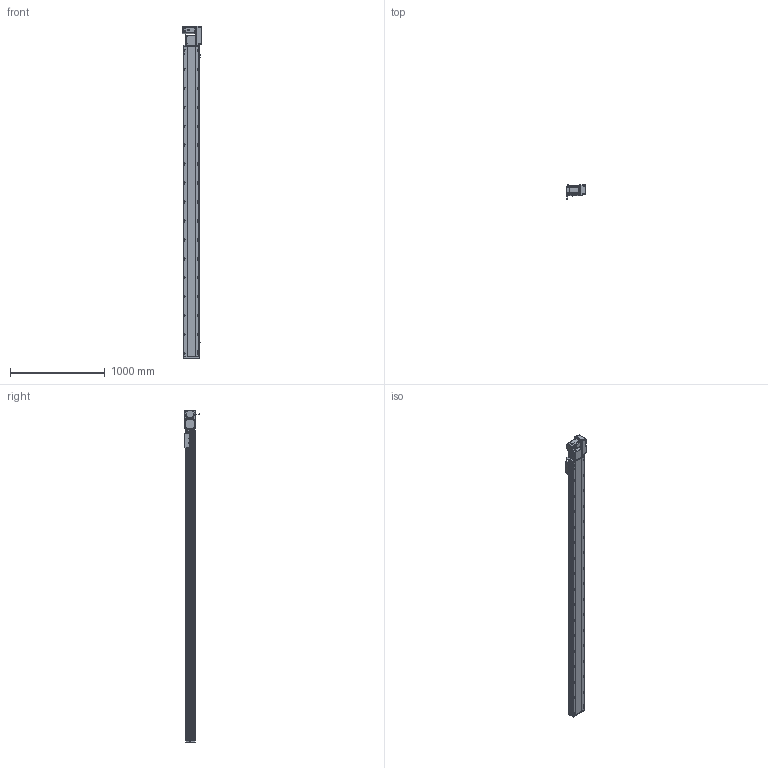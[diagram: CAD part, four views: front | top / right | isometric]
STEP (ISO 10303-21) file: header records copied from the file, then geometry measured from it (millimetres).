
FILE_DESCRIPTION (( 'STEP AP214' ), '1' );
FILE_NAME ('RTB17S-XX-3000-R-M75-C4.STEP', '2025-12-12T01:50:55', ( '' ), ( '' ), 'SwSTEP 2.0', 'SolidWorks 2018', '' );
FILE_SCHEMA (( 'AUTOMOTIVE_DESIGN' ));
Length unit declared in the file: millimetre
Products named in the file (15): RTB22S-GY-005P^RTB17S-R-々湍釱蚾饜-750W_RTB17S-XX-XX-R-M75-C4; RTB17S-L-014-T20-P75--々湍釱^RTB17S-R-々湍釱蚾饜-750W_RTB17S-XX-XX-R-M75-C4; RTB22S-GY-018P^RTB17S-R-々湍釱蚾饜-750W_RTB17S-XX-XX-R-M75-C4; RTB17-R-011菁釱^RTB17S-XX-XX-R-M75-C4; RTB17S-賑釱^RTB17S-XX-XX-R-M75-C4; RTB17S-R-々湍釱蚾饜-750W^RTB17S-XX-XX-R-M75-C4; RTB17S-L-007奻裔^RTB17S-XX-XX-R-M75-C4; 750W萇儂^RTB17S-XX-XX-R-M75-C4; EE672^RTB17S-XX-XX-R-M75-C4; RTB17S-L-004-賑釱^RTB17S-賑釱_RTB17S-XX-XX-R-M75-C4; RTH13-BL-012覜茼え俋离^RTB17S-賑釱_RTB17S-XX-XX-R-M75-C4; RTB17S-XX-3000-R-M75-C4; RTB17S-L-001-耜醱啣^RTB17S-XX-XX-R-M75-C4; RTB22S-GY-017P^RTB17S-R-々湍釱蚾饜-750W_RTB17S-XX-XX-R-M75-C4; RTB22S-GY-008-M75--萇儂啣^RTB17S-R-々湍釱蚾饜-750W_RTB17S-XX-XX-R-M75-C4
Assembly tree (17 placements, depth 3):
  RTB17S-XX-3000-R-M75-C4
    RTB17-R-011菁釱^RTB17S-XX-XX-R-M75-C4
    EE672^RTB17S-XX-XX-R-M75-C4  x3
    RTB17S-L-001-耜醱啣^RTB17S-XX-XX-R-M75-C4
    RTB17S-賑釱^RTB17S-XX-XX-R-M75-C4
      RTB17S-L-004-賑釱^RTB17S-賑釱_RTB17S-XX-XX-R-M75-C4
      RTH13-BL-012覜茼え俋离^RTB17S-賑釱_RTB17S-XX-XX-R-M75-C4
    RTB17S-L-007奻裔^RTB17S-XX-XX-R-M75-C4
    750W萇儂^RTB17S-XX-XX-R-M75-C4
    RTB17S-R-々湍釱蚾饜-750W^RTB17S-XX-XX-R-M75-C4
      RTB17S-L-014-T20-P75--々湍釱^RTB17S-R-々湍釱蚾饜-750W_RTB17S-XX-XX-R-M75-C4
      RTB22S-GY-005P^RTB17S-R-々湍釱蚾饜-750W_RTB17S-XX-XX-R-M75-C4
      RTB22S-GY-017P^RTB17S-R-々湍釱蚾饜-750W_RTB17S-XX-XX-R-M75-C4  x2
      RTB22S-GY-008-M75--萇儂啣^RTB17S-R-々湍釱蚾饜-750W_RTB17S-XX-XX-R-M75-C4
      RTB22S-GY-018P^RTB17S-R-々湍釱蚾饜-750W_RTB17S-XX-XX-R-M75-C4
Bounding box: 207.4 x 152.7 x 3499 mm (x, y, z)
Volume: 24706077.9 mm3; surface area: 4526678.2 mm2
Topology: 17 solids, 17 shells, 2249 faces, 6322 edges, 4094 vertices
Faces by surface type: plane 990, cylinder 843, bspline 294, cone 110, sphere 8, torus 4
Entity records: 65782 total; most frequent: CARTESIAN_POINT 19586, ORIENTED_EDGE 9488, DIRECTION 8762, EDGE_CURVE 4744, AXIS2_PLACEMENT_3D 3114, VERTEX_POINT 3098, LINE 2534, VECTOR 2534
